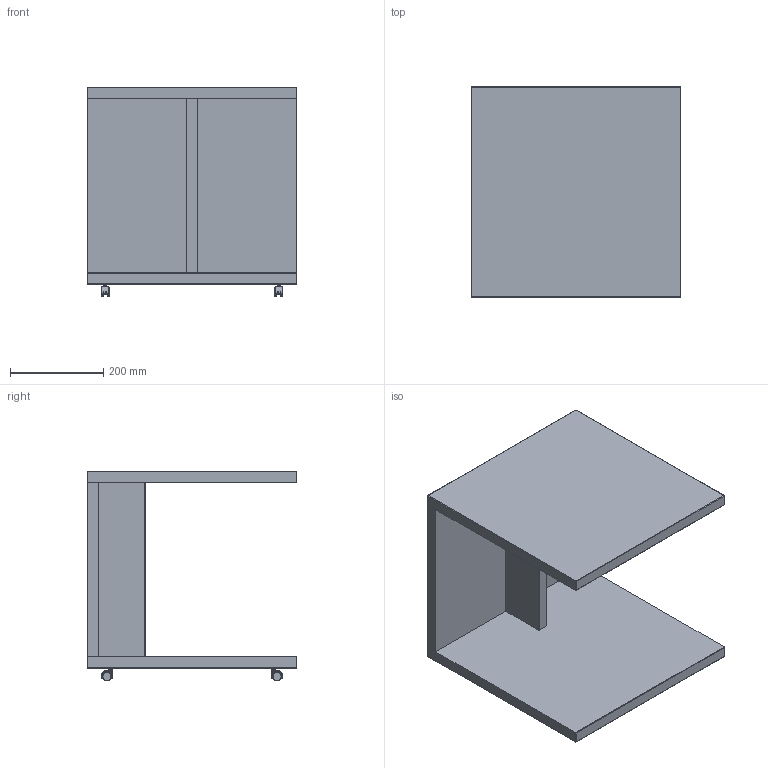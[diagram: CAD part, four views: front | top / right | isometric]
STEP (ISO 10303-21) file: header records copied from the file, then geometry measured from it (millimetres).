
FILE_DESCRIPTION(/* description */ (''),/* implementation_level */ '2;1');
FILE_NAME(/* name */ 'KINOSH~1',/* time_stamp */ '2019-07-31T09:32:27+09:00',/* author */ (''),/* organization */ (''),/* preprocessor_version */ 'ST-DEVELOPER v15',/* originating_system */ '',/* authorisation */ '');
FILE_SCHEMA (('AUTOMOTIVE_DESIGN'));
Length unit declared in the file: millimetre
Products named in the file (1): Document
Bounding box: 450 x 450 x 449.99 mm (x, y, z)
Volume: 15272819.3 mm3; surface area: 1389677.3 mm2
Topology: 20 solids, 20 shells, 562 faces, 1226 edges, 692 vertices
Faces by surface type: bspline 446, plane 116
Entity records: 26650 total; most frequent: CARTESIAN_POINT 19914, ORIENTED_EDGE 2396, EDGE_CURVE 1198, VERTEX_POINT 692, EDGE_LOOP 594, ADVANCED_FACE 562, FACE_OUTER_BOUND 562, B_SPLINE_CURVE_WITH_KNOTS 270
